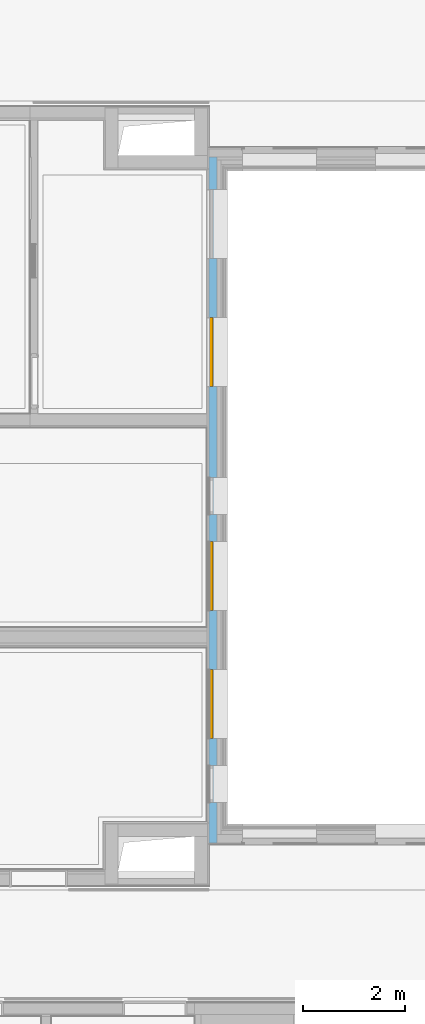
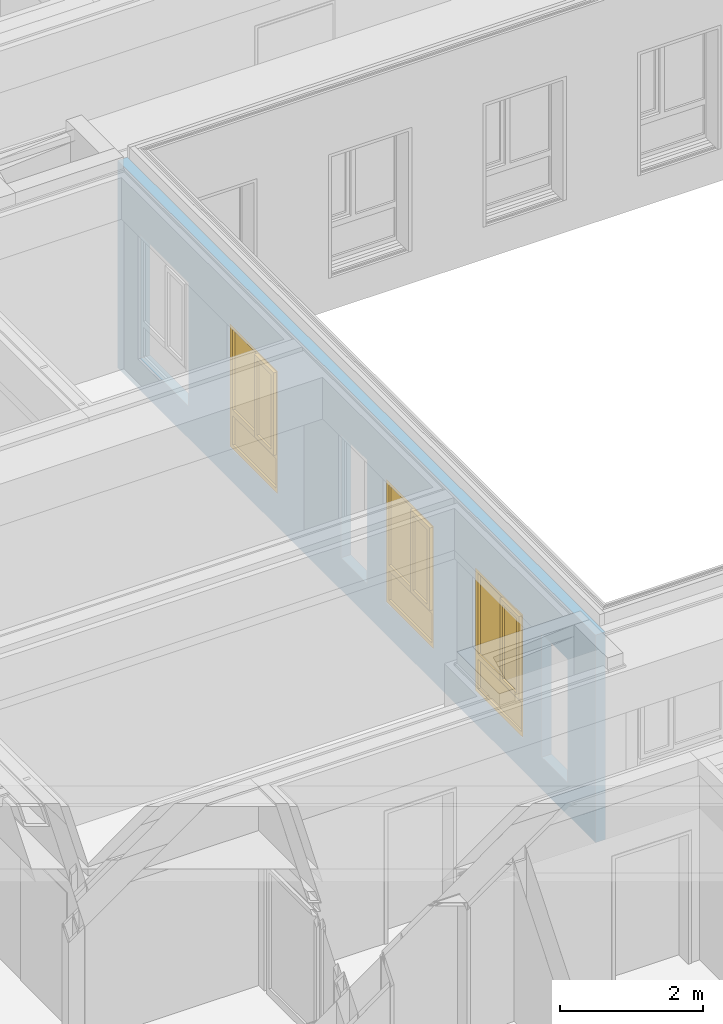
# One storey, part 120 of 222: 3 windows, 6 openings, plus 1 element that does not belong to this part.
"""IFC4 building model written with IfcOpenShell, lengths in metres."""

from ifc_helpers import new_model, entity, si_unit, converted_unit, derived_unit, frame, frame_2d, origin, origin_with_axes, place, context, subcontext, project, spatial, polyline, rectangle, outline, extrude, closed_shell, open_shell, surface_model, source, transform, mapped, material, element, fill, save


model = new_model("IFC4")

# Units and contexts
model_context = context("Model", 3, precision=1e-05, world=origin())
body_context = subcontext(model_context, "Body", "Model", "MODEL_VIEW")
ifc_project = project(units=[si_unit("LENGTHUNIT", "METRE"), si_unit("AREAUNIT", "SQUARE_METRE"), si_unit("VOLUMEUNIT", "CUBIC_METRE"), si_unit("MASSUNIT", "GRAM", prefix="KILO"), converted_unit("PLANEANGLEUNIT", "DEGREE", entity("IfcPlaneAngleMeasure", 0.0174532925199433), si_unit("PLANEANGLEUNIT", "RADIAN"), dimensions=[0, 0, 0, 0, 0, 0, 0]), derived_unit("THERMALTRANSMITTANCEUNIT", [(si_unit("POWERUNIT", "WATT"), 1), (si_unit("THERMODYNAMICTEMPERATUREUNIT", "KELVIN"), -1), (si_unit("LENGTHUNIT", "METRE"), -2)]), derived_unit("VOLUMETRICFLOWRATEUNIT", [(si_unit("LENGTHUNIT", "METRE"), 3), (converted_unit("TIMEUNIT", "hour", entity("IfcTimeMeasure", 3600.0), si_unit("TIMEUNIT", "SECOND"), dimensions=[0, 0, 1, 0, 0, 0, 0]), -1), (si_unit("LENGTHUNIT", "METRE"), -1)])], contexts=[model_context])

# Site, building, storey
site_placement = place(None, origin())
site = spatial("IfcSite", under=ifc_project, at=site_placement, Name="Psychiatrie Neubau Wunstorf", CompositionType="ELEMENT")
building_placement = place(site_placement, origin())
building = spatial("IfcBuilding", under=site, at=building_placement, Name="Neubau H2 Stationsgebäude", CompositionType="ELEMENT")
storey_placement = place(building_placement, frame((0.0, 0.0, 3.6)))
storey = spatial("IfcBuildingStorey", under=building, at=storey_placement, Name="H2 Ebene +1", CompositionType="ELEMENT", Elevation=3.6)

# Wall, openings, windows
ifc_material = material(Name="WA-DL")
wall_placement = place(storey_placement, frame((79.175, 21.840001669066, 0.0), z_axis=(0.0, 0.0, 1.0), x_axis=(0.0, -1.0, 0.0)))
wall = element("IfcWall", 1, at=wall_placement, inside=storey, material=ifc_material, context=body_context, shape_type="SweptSolid", body=[
    extrude(rectangle(XDim=13.390001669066, YDim=0.16, at=frame_2d((6.695000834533, 0.08), x_axis=(1.0, 0.0))), origin_with_axes(), (0.0, 0.0, 1.0), 3.55),
])
opening_1_placement = place(wall_placement, frame((11.3565882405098, 0.16, 0.55), z_axis=(0.0, -1.0, 0.0), x_axis=(0.0, 0.0, 1.0)))
opening_1 = element("IfcOpeningElement", 2, at=opening_1_placement, cuts=wall, Name="Fensteröffnung", ObjectType="Opening", context=body_context, shape_type="SweptSolid", body=[
    extrude(outline(polyline([(2.115, 1.35), (2.115, 0.0), (0.0, 0.0), (0.0, 1.35), (2.115, 1.35)])), origin_with_axes(), (0.0, 0.0, 1.0), 0.16),
])
opening_2_placement = place(wall_placement, frame((8.85664578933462, 0.16, 0.55), z_axis=(0.0, -1.0, 0.0), x_axis=(0.0, 0.0, 1.0)))
opening_2 = element("IfcOpeningElement", 3, at=opening_2_placement, cuts=wall, Name="Fensteröffnung", ObjectType="Opening", context=body_context, shape_type="SweptSolid", body=[
    extrude(outline(polyline([(2.115, 1.35), (2.115, 0.0), (0.0, 0.0), (0.0, 1.35), (2.115, 1.35)])), origin_with_axes(), (0.0, 0.0, 1.0), 0.16),
])
opening_3_placement = place(wall_placement, frame((4.48200631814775, 0.16, 0.55), z_axis=(0.0, -1.0, 0.0), x_axis=(0.0, 0.0, 1.0)))
opening_3 = element("IfcOpeningElement", 4, at=opening_3_placement, cuts=wall, Name="Fensteröffnung", ObjectType="Opening", context=body_context, shape_type="SweptSolid", body=[
    extrude(outline(polyline([(2.115, 1.35), (2.115, 0.0), (0.0, 0.0), (0.0, 1.35), (2.115, 1.35)])), origin_with_axes(), (0.0, 0.0, 1.0), 0.16),
])
opening_4_placement = place(wall_placement, frame((1.98244645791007, 0.16, 0.55), z_axis=(0.0, -1.0, 0.0), x_axis=(0.0, 0.0, 1.0)))
element("IfcOpeningElement", 5, at=opening_4_placement, cuts=wall, Name="Fensteröffnung", ObjectType="Opening", context=body_context, shape_type="SweptSolid", body=[
    extrude(outline(polyline([(2.115, 1.35), (2.115, 0.0), (0.0, 0.0), (0.0, 1.35), (2.115, 1.35)])), origin_with_axes(), (0.0, 0.0, 1.0), 0.16),
])
opening_5_placement = place(wall_placement, frame((12.6050016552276, 0.16, 0.55), z_axis=(0.0, -1.0, 0.0), x_axis=(0.0, 0.0, 1.0)))
element("IfcOpeningElement", 6, at=opening_5_placement, cuts=wall, Name="Fensteröffnung", ObjectType="Opening", context=body_context, shape_type="SweptSolid", body=[
    extrude(outline(polyline([(2.115, 0.725), (2.115, 0.0), (0.0, 0.0), (0.0, 0.725), (2.115, 0.725)])), origin_with_axes(), (0.0, 0.0, 1.0), 0.16),
])
opening_6_placement = place(wall_placement, frame((6.98238889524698, 0.16, 0.55), z_axis=(0.0, -1.0, 0.0), x_axis=(0.0, 0.0, 1.0)))
element("IfcOpeningElement", 7, at=opening_6_placement, cuts=wall, Name="Fensteröffnung", ObjectType="Opening", context=body_context, shape_type="SweptSolid", body=[
    extrude(outline(polyline([(2.115, 0.725), (2.115, 0.0), (0.0, 0.0), (0.0, 0.725), (2.115, 0.725)])), origin_with_axes(), (0.0, 0.0, 1.0), 0.16),
])
shared_shape_1 = source(origin_with_axes(), body_context, "Body", "SurfaceModel", [
    surface_model("IfcShellBasedSurfaceModel", [(1.35, 0.0, 2.115), (1.35, 0.0, 0.0), (1.28, 0.0, 0.0), (1.28, 0.0, 2.115), (1.35, 0.0699999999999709, 0.0), (1.35, 0.0699999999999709, 2.115), (1.28, 0.0699999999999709, 2.115), (1.28, 0.0699999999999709, 0.0)], [closed_shell([[[0, 1, 2, 3]], [[4, 5, 6, 7]], [[1, 0, 5, 4]], [[2, 1, 4, 7]], [[3, 2, 7, 6]], [[0, 3, 6, 5]]], orient=[[False], [False], [False], [False], [False], [False]])]),
    surface_model("IfcShellBasedSurfaceModel", [(0.0700000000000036, 0.0, 2.115), (0.0700000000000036, 0.0, 0.0), (0.0, 0.0, 0.0), (0.0, 0.0, 2.115), (0.0700000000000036, 0.0699999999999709, 0.0), (0.0700000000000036, 0.0699999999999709, 2.115), (0.0, 0.0699999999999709, 2.115), (0.0, 0.0699999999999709, 0.0)], [closed_shell([[[0, 1, 2, 3]], [[4, 5, 6, 7]], [[1, 0, 5, 4]], [[2, 1, 4, 7]], [[3, 2, 7, 6]], [[0, 3, 6, 5]]], orient=[[False], [False], [False], [False], [False], [False]])]),
    surface_model("IfcShellBasedSurfaceModel", [(1.28, 0.0, 0.07), (1.28, 0.0, 0.0), (0.0700000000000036, 0.0, 0.0), (0.0700000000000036, 0.0, 0.07), (1.28, 0.0699999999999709, 0.0), (1.28, 0.0699999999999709, 0.07), (0.0700000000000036, 0.0699999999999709, 0.07), (0.0700000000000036, 0.0699999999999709, 0.0)], [closed_shell([[[0, 1, 2, 3]], [[4, 5, 6, 7]], [[1, 0, 5, 4]], [[2, 1, 4, 7]], [[3, 2, 7, 6]], [[0, 3, 6, 5]]], orient=[[False], [False], [False], [False], [False], [False]])]),
    surface_model("IfcShellBasedSurfaceModel", [(1.28, 0.0, 2.115), (1.28, 0.0, 2.045), (0.0700000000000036, 0.0, 2.045), (0.0700000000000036, 0.0, 2.115), (1.28, 0.0699999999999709, 2.045), (1.28, 0.0699999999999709, 2.115), (0.0700000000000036, 0.0699999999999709, 2.115), (0.0700000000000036, 0.0699999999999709, 2.045)], [closed_shell([[[0, 1, 2, 3]], [[4, 5, 6, 7]], [[1, 0, 5, 4]], [[2, 1, 4, 7]], [[3, 2, 7, 6]], [[0, 3, 6, 5]]], orient=[[False], [False], [False], [False], [False], [False]])]),
    surface_model("IfcShellBasedSurfaceModel", [(1.28, 0.0, 0.67), (1.28, 0.0, 0.57), (0.0700000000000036, 0.0, 0.57), (0.0700000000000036, 0.0, 0.67), (1.28, 0.0699999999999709, 0.57), (1.28, 0.0699999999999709, 0.67), (0.0700000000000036, 0.0699999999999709, 0.67), (0.0700000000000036, 0.0699999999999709, 0.57)], [closed_shell([[[0, 1, 2, 3]], [[4, 5, 6, 7]], [[1, 0, 5, 4]], [[2, 1, 4, 7]], [[3, 2, 7, 6]], [[0, 3, 6, 5]]], orient=[[False], [False], [False], [False], [False], [False]])]),
    surface_model("IfcShellBasedSurfaceModel", [(1.28, 0.0349999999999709, 0.07), (0.0700000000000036, 0.0349999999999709, 0.07), (0.0700000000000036, 0.0349999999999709, 0.57), (1.28, 0.0349999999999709, 0.57)], [open_shell([[[0, 1, 2, 3]]], orient=[[False]])]),
    surface_model("IfcShellBasedSurfaceModel", [(0.784300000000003, 0.0, 2.045), (0.784300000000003, 0.0, 0.67), (0.714300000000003, 0.0, 0.67), (0.714300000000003, 0.0, 2.045), (0.784300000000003, 0.0699999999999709, 0.67), (0.784300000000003, 0.0699999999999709, 2.045), (0.714300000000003, 0.0699999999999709, 2.045), (0.714300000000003, 0.0699999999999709, 0.67)], [closed_shell([[[0, 1, 2, 3]], [[4, 5, 6, 7]], [[1, 0, 5, 4]], [[2, 1, 4, 7]], [[3, 2, 7, 6]], [[0, 3, 6, 5]]], orient=[[False], [False], [False], [False], [False], [False]])]),
    surface_model("IfcShellBasedSurfaceModel", [(1.3, -0.0500000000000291, 2.065), (1.3, -0.0500000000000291, 0.65), (1.23, -0.0500000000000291, 0.65), (1.23, -0.0500000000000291, 2.065), (1.3, 0.0199999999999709, 0.65), (1.3, 0.0199999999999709, 2.065), (1.23, 0.0199999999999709, 2.065), (1.23, 0.0199999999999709, 0.65)], [closed_shell([[[0, 1, 2, 3]], [[4, 5, 6, 7]], [[1, 0, 5, 4]], [[2, 1, 4, 7]], [[3, 2, 7, 6]], [[0, 3, 6, 5]]], orient=[[False], [False], [False], [False], [False], [False]])]),
    surface_model("IfcShellBasedSurfaceModel", [(0.834300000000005, -0.0500000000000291, 2.065), (0.834300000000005, -0.0500000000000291, 0.65), (0.764300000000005, -0.0500000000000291, 0.65), (0.764300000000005, -0.0500000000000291, 2.065), (0.834300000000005, 0.0199999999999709, 0.65), (0.834300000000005, 0.0199999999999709, 2.065), (0.764300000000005, 0.0199999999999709, 2.065), (0.764300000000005, 0.0199999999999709, 0.65)], [closed_shell([[[0, 1, 2, 3]], [[4, 5, 6, 7]], [[1, 0, 5, 4]], [[2, 1, 4, 7]], [[3, 2, 7, 6]], [[0, 3, 6, 5]]], orient=[[False], [False], [False], [False], [False], [False]])]),
    surface_model("IfcShellBasedSurfaceModel", [(1.23, -0.0500000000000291, 0.72), (1.23, -0.0500000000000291, 0.65), (0.834300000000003, -0.0500000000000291, 0.65), (0.834300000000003, -0.0500000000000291, 0.72), (1.23, 0.0199999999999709, 0.65), (1.23, 0.0199999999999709, 0.72), (0.834300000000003, 0.0199999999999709, 0.72), (0.834300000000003, 0.0199999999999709, 0.65)], [closed_shell([[[0, 1, 2, 3]], [[4, 5, 6, 7]], [[1, 0, 5, 4]], [[2, 1, 4, 7]], [[3, 2, 7, 6]], [[0, 3, 6, 5]]], orient=[[False], [False], [False], [False], [False], [False]])]),
    surface_model("IfcShellBasedSurfaceModel", [(1.23, -0.0500000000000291, 2.065), (1.23, -0.0500000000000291, 1.995), (0.834300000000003, -0.0500000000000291, 1.995), (0.834300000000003, -0.0500000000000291, 2.065), (1.23, 0.0199999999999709, 1.995), (1.23, 0.0199999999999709, 2.065), (0.834300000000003, 0.0199999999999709, 2.065), (0.834300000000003, 0.0199999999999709, 1.995)], [closed_shell([[[0, 1, 2, 3]], [[4, 5, 6, 7]], [[1, 0, 5, 4]], [[2, 1, 4, 7]], [[3, 2, 7, 6]], [[0, 3, 6, 5]]], orient=[[False], [False], [False], [False], [False], [False]])]),
    surface_model("IfcShellBasedSurfaceModel", [(0.714300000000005, 0.0349999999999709, 0.67), (0.0700000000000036, 0.0349999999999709, 0.67), (0.0700000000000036, 0.0349999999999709, 2.045), (0.714300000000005, 0.0349999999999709, 2.045)], [open_shell([[[0, 1, 2, 3]]], orient=[[False]])]),
    surface_model("IfcShellBasedSurfaceModel", [(1.23, -0.0150000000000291, 0.72), (0.834300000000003, -0.0150000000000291, 0.72), (0.834300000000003, -0.0150000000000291, 1.995), (1.23, -0.0150000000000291, 1.995)], [open_shell([[[0, 1, 2, 3]]], orient=[[False]])]),
])
window_1_placement = place(opening_1_placement, frame((0.0, 1.35, 0.146), z_axis=(1.0, 0.0, 0.0), x_axis=(0.0, -1.0, 0.0)))
window_1 = element("IfcWindow", 8, at=window_1_placement, inside=storey, Name="Fenster", OverallHeight=2.115, OverallWidth=1.35, PartitioningType="USERDEFINED", PredefinedType="WINDOW", context=body_context, shape_type="MappedRepresentation", body=[
    mapped(shared_shape_1, transform((0.0, 0.0, 0.0), x_axis=(1.0, 0.0, 0.0), y_axis=(0.0, 1.0, 0.0), z_axis=(0.0, 0.0, 1.0), scale=1.0)),
])
fill(opening_1, window_1)
shared_shape_2 = source(origin_with_axes(), body_context, "Body", "SurfaceModel", [
    surface_model("IfcShellBasedSurfaceModel", [(1.35, 0.0, 2.115), (1.35, 0.0, 0.0), (1.28, 0.0, 0.0), (1.28, 0.0, 2.115), (1.35, 0.0699999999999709, 0.0), (1.35, 0.0699999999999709, 2.115), (1.28, 0.0699999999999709, 2.115), (1.28, 0.0699999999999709, 0.0)], [closed_shell([[[0, 1, 2, 3]], [[4, 5, 6, 7]], [[1, 0, 5, 4]], [[2, 1, 4, 7]], [[3, 2, 7, 6]], [[0, 3, 6, 5]]], orient=[[False], [False], [False], [False], [False], [False]])]),
    surface_model("IfcShellBasedSurfaceModel", [(0.0700000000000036, 0.0, 2.115), (0.0700000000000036, 0.0, 0.0), (0.0, 0.0, 0.0), (0.0, 0.0, 2.115), (0.0700000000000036, 0.0699999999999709, 0.0), (0.0700000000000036, 0.0699999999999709, 2.115), (0.0, 0.0699999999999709, 2.115), (0.0, 0.0699999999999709, 0.0)], [closed_shell([[[0, 1, 2, 3]], [[4, 5, 6, 7]], [[1, 0, 5, 4]], [[2, 1, 4, 7]], [[3, 2, 7, 6]], [[0, 3, 6, 5]]], orient=[[False], [False], [False], [False], [False], [False]])]),
    surface_model("IfcShellBasedSurfaceModel", [(1.28, 0.0, 0.07), (1.28, 0.0, 0.0), (0.0700000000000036, 0.0, 0.0), (0.0700000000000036, 0.0, 0.07), (1.28, 0.0699999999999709, 0.0), (1.28, 0.0699999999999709, 0.07), (0.0700000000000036, 0.0699999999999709, 0.07), (0.0700000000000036, 0.0699999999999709, 0.0)], [closed_shell([[[0, 1, 2, 3]], [[4, 5, 6, 7]], [[1, 0, 5, 4]], [[2, 1, 4, 7]], [[3, 2, 7, 6]], [[0, 3, 6, 5]]], orient=[[False], [False], [False], [False], [False], [False]])]),
    surface_model("IfcShellBasedSurfaceModel", [(1.28, 0.0, 2.115), (1.28, 0.0, 2.045), (0.0700000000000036, 0.0, 2.045), (0.0700000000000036, 0.0, 2.115), (1.28, 0.0699999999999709, 2.045), (1.28, 0.0699999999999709, 2.115), (0.0700000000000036, 0.0699999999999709, 2.115), (0.0700000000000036, 0.0699999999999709, 2.045)], [closed_shell([[[0, 1, 2, 3]], [[4, 5, 6, 7]], [[1, 0, 5, 4]], [[2, 1, 4, 7]], [[3, 2, 7, 6]], [[0, 3, 6, 5]]], orient=[[False], [False], [False], [False], [False], [False]])]),
    surface_model("IfcShellBasedSurfaceModel", [(1.28, 0.0, 0.67), (1.28, 0.0, 0.57), (0.0700000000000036, 0.0, 0.57), (0.0700000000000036, 0.0, 0.67), (1.28, 0.0699999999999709, 0.57), (1.28, 0.0699999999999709, 0.67), (0.0700000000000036, 0.0699999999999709, 0.67), (0.0700000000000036, 0.0699999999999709, 0.57)], [closed_shell([[[0, 1, 2, 3]], [[4, 5, 6, 7]], [[1, 0, 5, 4]], [[2, 1, 4, 7]], [[3, 2, 7, 6]], [[0, 3, 6, 5]]], orient=[[False], [False], [False], [False], [False], [False]])]),
    surface_model("IfcShellBasedSurfaceModel", [(1.28, 0.0349999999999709, 0.07), (0.0700000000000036, 0.0349999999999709, 0.07), (0.0700000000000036, 0.0349999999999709, 0.57), (1.28, 0.0349999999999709, 0.57)], [open_shell([[[0, 1, 2, 3]]], orient=[[False]])]),
    surface_model("IfcShellBasedSurfaceModel", [(0.784300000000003, 0.0, 2.045), (0.784300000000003, 0.0, 0.67), (0.714300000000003, 0.0, 0.67), (0.714300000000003, 0.0, 2.045), (0.784300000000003, 0.0699999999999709, 0.67), (0.784300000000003, 0.0699999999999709, 2.045), (0.714300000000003, 0.0699999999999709, 2.045), (0.714300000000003, 0.0699999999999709, 0.67)], [closed_shell([[[0, 1, 2, 3]], [[4, 5, 6, 7]], [[1, 0, 5, 4]], [[2, 1, 4, 7]], [[3, 2, 7, 6]], [[0, 3, 6, 5]]], orient=[[False], [False], [False], [False], [False], [False]])]),
    surface_model("IfcShellBasedSurfaceModel", [(1.3, -0.0500000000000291, 2.065), (1.3, -0.0500000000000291, 0.65), (1.23, -0.0500000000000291, 0.65), (1.23, -0.0500000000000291, 2.065), (1.3, 0.0199999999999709, 0.65), (1.3, 0.0199999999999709, 2.065), (1.23, 0.0199999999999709, 2.065), (1.23, 0.0199999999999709, 0.65)], [closed_shell([[[0, 1, 2, 3]], [[4, 5, 6, 7]], [[1, 0, 5, 4]], [[2, 1, 4, 7]], [[3, 2, 7, 6]], [[0, 3, 6, 5]]], orient=[[False], [False], [False], [False], [False], [False]])]),
    surface_model("IfcShellBasedSurfaceModel", [(0.834300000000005, -0.0500000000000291, 2.065), (0.834300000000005, -0.0500000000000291, 0.65), (0.764300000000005, -0.0500000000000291, 0.65), (0.764300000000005, -0.0500000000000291, 2.065), (0.834300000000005, 0.0199999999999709, 0.65), (0.834300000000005, 0.0199999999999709, 2.065), (0.764300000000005, 0.0199999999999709, 2.065), (0.764300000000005, 0.0199999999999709, 0.65)], [closed_shell([[[0, 1, 2, 3]], [[4, 5, 6, 7]], [[1, 0, 5, 4]], [[2, 1, 4, 7]], [[3, 2, 7, 6]], [[0, 3, 6, 5]]], orient=[[False], [False], [False], [False], [False], [False]])]),
    surface_model("IfcShellBasedSurfaceModel", [(1.23, -0.0500000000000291, 0.72), (1.23, -0.0500000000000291, 0.65), (0.834300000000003, -0.0500000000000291, 0.65), (0.834300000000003, -0.0500000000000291, 0.72), (1.23, 0.0199999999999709, 0.65), (1.23, 0.0199999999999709, 0.72), (0.834300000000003, 0.0199999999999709, 0.72), (0.834300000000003, 0.0199999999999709, 0.65)], [closed_shell([[[0, 1, 2, 3]], [[4, 5, 6, 7]], [[1, 0, 5, 4]], [[2, 1, 4, 7]], [[3, 2, 7, 6]], [[0, 3, 6, 5]]], orient=[[False], [False], [False], [False], [False], [False]])]),
    surface_model("IfcShellBasedSurfaceModel", [(1.23, -0.0500000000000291, 2.065), (1.23, -0.0500000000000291, 1.995), (0.834300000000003, -0.0500000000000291, 1.995), (0.834300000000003, -0.0500000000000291, 2.065), (1.23, 0.0199999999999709, 1.995), (1.23, 0.0199999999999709, 2.065), (0.834300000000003, 0.0199999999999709, 2.065), (0.834300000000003, 0.0199999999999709, 1.995)], [closed_shell([[[0, 1, 2, 3]], [[4, 5, 6, 7]], [[1, 0, 5, 4]], [[2, 1, 4, 7]], [[3, 2, 7, 6]], [[0, 3, 6, 5]]], orient=[[False], [False], [False], [False], [False], [False]])]),
    surface_model("IfcShellBasedSurfaceModel", [(0.714300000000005, 0.0349999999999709, 0.67), (0.0700000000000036, 0.0349999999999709, 0.67), (0.0700000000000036, 0.0349999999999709, 2.045), (0.714300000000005, 0.0349999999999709, 2.045)], [open_shell([[[0, 1, 2, 3]]], orient=[[False]])]),
    surface_model("IfcShellBasedSurfaceModel", [(1.23, -0.0150000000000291, 0.72), (0.834300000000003, -0.0150000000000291, 0.72), (0.834300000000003, -0.0150000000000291, 1.995), (1.23, -0.0150000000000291, 1.995)], [open_shell([[[0, 1, 2, 3]]], orient=[[False]])]),
])
window_2_placement = place(opening_2_placement, frame((0.0, 1.35, 0.146), z_axis=(1.0, 0.0, 0.0), x_axis=(0.0, -1.0, 0.0)))
window_2 = element("IfcWindow", 9, at=window_2_placement, inside=storey, Name="Fenster", OverallHeight=2.115, OverallWidth=1.35, PartitioningType="USERDEFINED", PredefinedType="WINDOW", context=body_context, shape_type="MappedRepresentation", body=[
    mapped(shared_shape_2, transform((0.0, 0.0, 0.0), x_axis=(1.0, 0.0, 0.0), y_axis=(0.0, 1.0, 0.0), z_axis=(0.0, 0.0, 1.0), scale=1.0)),
])
fill(opening_2, window_2)
shared_shape_3 = source(origin_with_axes(), body_context, "Body", "SurfaceModel", [
    surface_model("IfcShellBasedSurfaceModel", [(1.35000000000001, 0.0, 2.115), (1.35000000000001, 0.0, 0.0), (1.28000000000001, 0.0, 0.0), (1.28000000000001, 0.0, 2.115), (1.35000000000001, 0.0699999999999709, 0.0), (1.35000000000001, 0.0699999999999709, 2.115), (1.28000000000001, 0.0699999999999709, 2.115), (1.28000000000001, 0.0699999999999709, 0.0)], [closed_shell([[[0, 1, 2, 3]], [[4, 5, 6, 7]], [[1, 0, 5, 4]], [[2, 1, 4, 7]], [[3, 2, 7, 6]], [[0, 3, 6, 5]]], orient=[[False], [False], [False], [False], [False], [False]])]),
    surface_model("IfcShellBasedSurfaceModel", [(0.0700000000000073, 0.0, 2.115), (0.0700000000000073, 0.0, 0.0), (0.0, 0.0, 0.0), (0.0, 0.0, 2.115), (0.0700000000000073, 0.0699999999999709, 0.0), (0.0700000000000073, 0.0699999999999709, 2.115), (0.0, 0.0699999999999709, 2.115), (0.0, 0.0699999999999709, 0.0)], [closed_shell([[[0, 1, 2, 3]], [[4, 5, 6, 7]], [[1, 0, 5, 4]], [[2, 1, 4, 7]], [[3, 2, 7, 6]], [[0, 3, 6, 5]]], orient=[[False], [False], [False], [False], [False], [False]])]),
    surface_model("IfcShellBasedSurfaceModel", [(1.28000000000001, 0.0, 0.07), (1.28000000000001, 0.0, 0.0), (0.0700000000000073, 0.0, 0.0), (0.0700000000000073, 0.0, 0.07), (1.28000000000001, 0.0699999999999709, 0.0), (1.28000000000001, 0.0699999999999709, 0.07), (0.0700000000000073, 0.0699999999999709, 0.07), (0.0700000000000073, 0.0699999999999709, 0.0)], [closed_shell([[[0, 1, 2, 3]], [[4, 5, 6, 7]], [[1, 0, 5, 4]], [[2, 1, 4, 7]], [[3, 2, 7, 6]], [[0, 3, 6, 5]]], orient=[[False], [False], [False], [False], [False], [False]])]),
    surface_model("IfcShellBasedSurfaceModel", [(1.28000000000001, 0.0, 2.115), (1.28000000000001, 0.0, 2.045), (0.0700000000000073, 0.0, 2.045), (0.0700000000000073, 0.0, 2.115), (1.28000000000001, 0.0699999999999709, 2.045), (1.28000000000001, 0.0699999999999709, 2.115), (0.0700000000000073, 0.0699999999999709, 2.115), (0.0700000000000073, 0.0699999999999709, 2.045)], [closed_shell([[[0, 1, 2, 3]], [[4, 5, 6, 7]], [[1, 0, 5, 4]], [[2, 1, 4, 7]], [[3, 2, 7, 6]], [[0, 3, 6, 5]]], orient=[[False], [False], [False], [False], [False], [False]])]),
    surface_model("IfcShellBasedSurfaceModel", [(1.28000000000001, 0.0, 0.67), (1.28000000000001, 0.0, 0.57), (0.0700000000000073, 0.0, 0.57), (0.0700000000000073, 0.0, 0.67), (1.28000000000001, 0.0699999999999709, 0.57), (1.28000000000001, 0.0699999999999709, 0.67), (0.0700000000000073, 0.0699999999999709, 0.67), (0.0700000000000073, 0.0699999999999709, 0.57)], [closed_shell([[[0, 1, 2, 3]], [[4, 5, 6, 7]], [[1, 0, 5, 4]], [[2, 1, 4, 7]], [[3, 2, 7, 6]], [[0, 3, 6, 5]]], orient=[[False], [False], [False], [False], [False], [False]])]),
    surface_model("IfcShellBasedSurfaceModel", [(1.28000000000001, 0.0349999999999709, 0.07), (0.0700000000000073, 0.0349999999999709, 0.07), (0.0700000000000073, 0.0349999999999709, 0.57), (1.28000000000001, 0.0349999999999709, 0.57)], [open_shell([[[0, 1, 2, 3]]], orient=[[False]])]),
    surface_model("IfcShellBasedSurfaceModel", [(0.784300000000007, 0.0, 2.045), (0.784300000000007, 0.0, 0.67), (0.714300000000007, 0.0, 0.67), (0.714300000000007, 0.0, 2.045), (0.784300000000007, 0.0699999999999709, 0.67), (0.784300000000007, 0.0699999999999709, 2.045), (0.714300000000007, 0.0699999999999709, 2.045), (0.714300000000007, 0.0699999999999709, 0.67)], [closed_shell([[[0, 1, 2, 3]], [[4, 5, 6, 7]], [[1, 0, 5, 4]], [[2, 1, 4, 7]], [[3, 2, 7, 6]], [[0, 3, 6, 5]]], orient=[[False], [False], [False], [False], [False], [False]])]),
    surface_model("IfcShellBasedSurfaceModel", [(1.30000000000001, -0.0500000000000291, 2.065), (1.30000000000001, -0.0500000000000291, 0.65), (1.23000000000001, -0.0500000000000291, 0.65), (1.23000000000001, -0.0500000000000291, 2.065), (1.30000000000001, 0.0199999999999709, 0.65), (1.30000000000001, 0.0199999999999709, 2.065), (1.23000000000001, 0.0199999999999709, 2.065), (1.23000000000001, 0.0199999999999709, 0.65)], [closed_shell([[[0, 1, 2, 3]], [[4, 5, 6, 7]], [[1, 0, 5, 4]], [[2, 1, 4, 7]], [[3, 2, 7, 6]], [[0, 3, 6, 5]]], orient=[[False], [False], [False], [False], [False], [False]])]),
    surface_model("IfcShellBasedSurfaceModel", [(0.834300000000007, -0.0500000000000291, 2.065), (0.834300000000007, -0.0500000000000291, 0.65), (0.764300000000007, -0.0500000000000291, 0.65), (0.764300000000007, -0.0500000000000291, 2.065), (0.834300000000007, 0.0199999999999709, 0.65), (0.834300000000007, 0.0199999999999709, 2.065), (0.764300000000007, 0.0199999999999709, 2.065), (0.764300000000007, 0.0199999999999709, 0.65)], [closed_shell([[[0, 1, 2, 3]], [[4, 5, 6, 7]], [[1, 0, 5, 4]], [[2, 1, 4, 7]], [[3, 2, 7, 6]], [[0, 3, 6, 5]]], orient=[[False], [False], [False], [False], [False], [False]])]),
    surface_model("IfcShellBasedSurfaceModel", [(1.23000000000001, -0.0500000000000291, 0.72), (1.23000000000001, -0.0500000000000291, 0.65), (0.834300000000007, -0.0500000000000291, 0.65), (0.834300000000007, -0.0500000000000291, 0.72), (1.23000000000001, 0.0199999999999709, 0.65), (1.23000000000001, 0.0199999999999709, 0.72), (0.834300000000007, 0.0199999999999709, 0.72), (0.834300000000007, 0.0199999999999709, 0.65)], [closed_shell([[[0, 1, 2, 3]], [[4, 5, 6, 7]], [[1, 0, 5, 4]], [[2, 1, 4, 7]], [[3, 2, 7, 6]], [[0, 3, 6, 5]]], orient=[[False], [False], [False], [False], [False], [False]])]),
    surface_model("IfcShellBasedSurfaceModel", [(1.23000000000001, -0.0500000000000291, 2.065), (1.23000000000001, -0.0500000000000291, 1.995), (0.834300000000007, -0.0500000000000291, 1.995), (0.834300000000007, -0.0500000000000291, 2.065), (1.23000000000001, 0.0199999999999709, 1.995), (1.23000000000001, 0.0199999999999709, 2.065), (0.834300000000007, 0.0199999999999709, 2.065), (0.834300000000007, 0.0199999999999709, 1.995)], [closed_shell([[[0, 1, 2, 3]], [[4, 5, 6, 7]], [[1, 0, 5, 4]], [[2, 1, 4, 7]], [[3, 2, 7, 6]], [[0, 3, 6, 5]]], orient=[[False], [False], [False], [False], [False], [False]])]),
    surface_model("IfcShellBasedSurfaceModel", [(0.714300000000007, 0.0349999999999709, 0.67), (0.0700000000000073, 0.0349999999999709, 0.67), (0.0700000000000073, 0.0349999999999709, 2.045), (0.714300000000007, 0.0349999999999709, 2.045)], [open_shell([[[0, 1, 2, 3]]], orient=[[False]])]),
    surface_model("IfcShellBasedSurfaceModel", [(1.23000000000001, -0.0150000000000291, 0.72), (0.834300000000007, -0.0150000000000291, 0.72), (0.834300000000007, -0.0150000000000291, 1.995), (1.23000000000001, -0.0150000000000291, 1.995)], [open_shell([[[0, 1, 2, 3]]], orient=[[False]])]),
])
window_3_placement = place(opening_3_placement, frame((0.0, 1.35, 0.146), z_axis=(1.0, 0.0, 0.0), x_axis=(0.0, -1.0, 0.0)))
window_3 = element("IfcWindow", 10, at=window_3_placement, inside=storey, Name="Fenster", OverallHeight=2.115, OverallWidth=1.35, PartitioningType="USERDEFINED", PredefinedType="WINDOW", context=body_context, shape_type="MappedRepresentation", body=[
    mapped(shared_shape_3, transform((0.0, 0.0, 0.0), x_axis=(1.0, 0.0, 0.0), y_axis=(0.0, 1.0, 0.0), z_axis=(0.0, 0.0, 1.0), scale=1.0)),
])
fill(opening_3, window_3)

save(model, "model.ifc")
